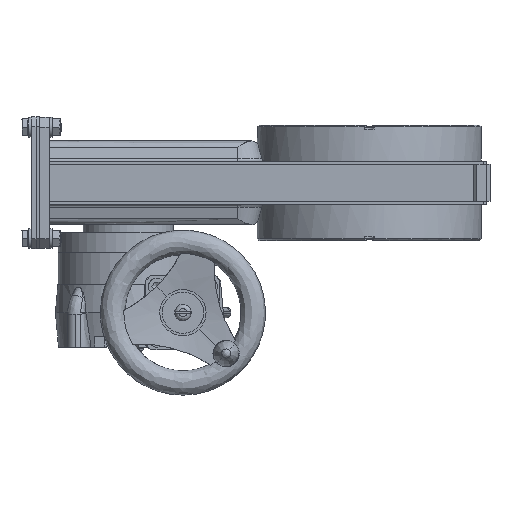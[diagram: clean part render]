
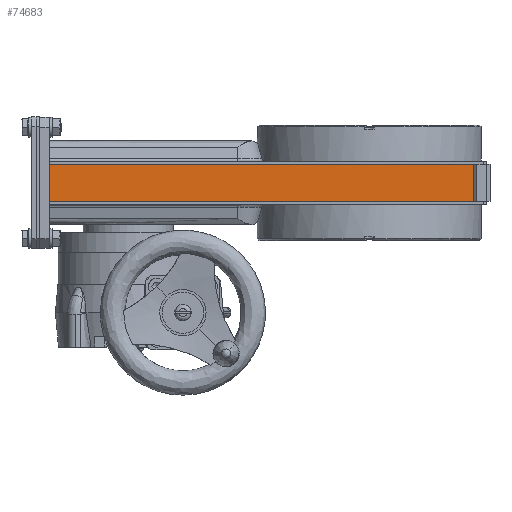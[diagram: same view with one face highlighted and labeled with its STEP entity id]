
A CAD part, left-side view. The second image highlights one B-rep face of the part: STEP entity #74683.
In plain terms, the highlighted free-form (B-spline) face has degree [1, 1] with [2, 2] control points.
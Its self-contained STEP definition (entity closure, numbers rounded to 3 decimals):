
#74493=CARTESIAN_POINT('V9',(0.,22.45,0.0)
   );
#74494=VERTEX_POINT('V9',#74493);
#74500=CARTESIAN_POINT('V7',(0.0,0.0,0.0));
#74501=VERTEX_POINT('V7',#74500);
#74502=CARTESIAN_POINT('E4',(0.0,0.0,0.0));
#74503=CARTESIAN_POINT('E4',(0.,22.45,0.0)
   );
#74504=QUASI_UNIFORM_CURVE('E4',1,(#74502,#74503),.POLYLINE_FORM.,
   .F.,.U.);
#74505=EDGE_CURVE('E4',#74501,#74494,#74504,.T.);
#74558=CARTESIAN_POINT('V8',(0.0,0.0,257.0));
#74559=VERTEX_POINT('V8',#74558);
#74565=CARTESIAN_POINT('V10',(0.,22.45,257.0)
   );
#74566=VERTEX_POINT('V10',#74565);
#74567=CARTESIAN_POINT('E17',(0.,22.45,257.0)
   );
#74568=CARTESIAN_POINT('E17',(0.0,0.0,257.0));
#74569=QUASI_UNIFORM_CURVE('E17',1,(#74567,#74568),.POLYLINE_FORM.,
   .F.,.U.);
#74570=EDGE_CURVE('E17',#74566,#74559,#74569,.T.);
#74658=CARTESIAN_POINT('E24',(0.0,0.0,257.0));
#74659=CARTESIAN_POINT('E24',(0.0,0.0,0.0));
#74660=QUASI_UNIFORM_CURVE('E24',1,(#74658,#74659),.POLYLINE_FORM.,
   .F.,.U.);
#74661=EDGE_CURVE('E24',#74559,#74501,#74660,.T.);
#74668=CARTESIAN_POINT('F6',(0.,22.45,0.0)
   );
#74669=CARTESIAN_POINT('F6',(0.0,0.0,0.0));
#74670=CARTESIAN_POINT('F6',(0.,22.45,257.0)
   );
#74671=CARTESIAN_POINT('F6',(0.0,0.0,257.0));
#74672=B_SPLINE_SURFACE_WITH_KNOTS('F6',1,1,((#74668,#74670),(
   #74669,#74671)),.PLANE_SURF.,.F.,.F.,.U.,(2,2),(2,2),(0.0,1.0),
   (0.0,11.448),.UNSPECIFIED.);
#74673=ORIENTED_EDGE('E4',*,*,#74505,.T.);
#74674=CARTESIAN_POINT('E25',(0.,22.45,257.0)
   );
#74675=CARTESIAN_POINT('E25',(0.,22.45,0.0)
   );
#74676=QUASI_UNIFORM_CURVE('E25',1,(#74674,#74675),.POLYLINE_FORM.,
   .F.,.U.);
#74677=EDGE_CURVE('E25',#74566,#74494,#74676,.T.);
#74678=ORIENTED_EDGE('E25',*,*,#74677,.F.);
#74679=ORIENTED_EDGE('E17',*,*,#74570,.T.);
#74680=ORIENTED_EDGE('E24',*,*,#74661,.T.);
#74681=EDGE_LOOP('F6',(#74673,#74678,#74679,#74680));
#74682=FACE_OUTER_BOUND('F6',#74681,.F.);
#74683=ADVANCED_FACE('F6',(#74682),#74672,.T.);
